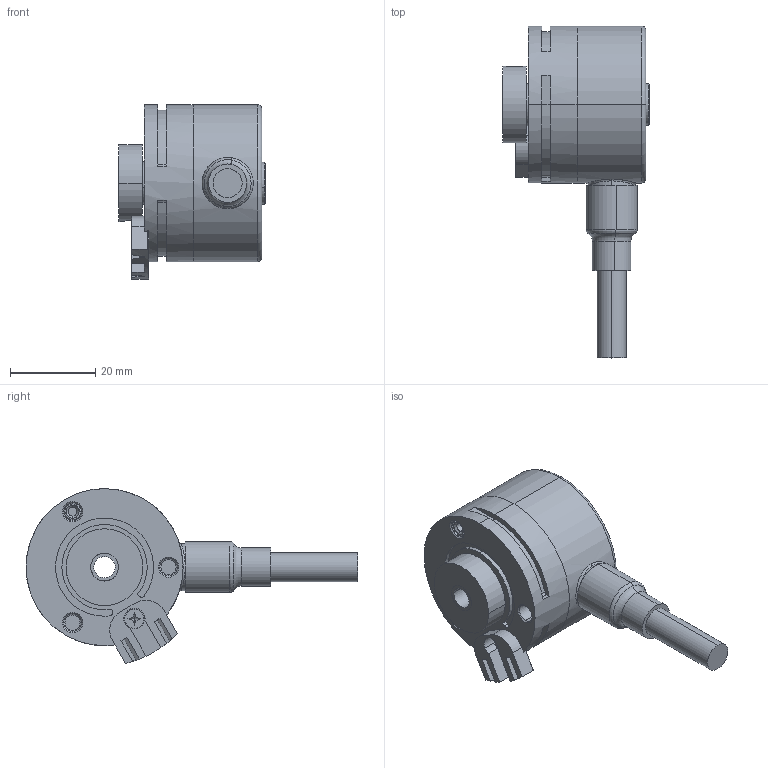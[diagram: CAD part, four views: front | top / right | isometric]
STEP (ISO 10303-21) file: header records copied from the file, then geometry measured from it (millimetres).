
FILE_DESCRIPTION (( 'STEP AP214' ), '1' );
FILE_NAME ('3720.12X1.XXXX.STEP', '2008-11-27T10:37:45', ( 'admin' ), ( 'Fritz Kübler GmbH' ), 'SwSTEP 2.0', 'SolidWorks 2008', '' );
FILE_SCHEMA (( 'AUTOMOTIVE_DESIGN' ));
Length unit declared in the file: millimetre
Products named in the file (1): 3720.12X1.XXXX
Bounding box: 34.3 x 77.8 x 40.95 mm (x, y, z)
Volume: 16612.3 mm3; surface area: 18872.9 mm2
Topology: 10 solids, 10 shells, 735 faces, 1814 edges, 1119 vertices
Faces by surface type: cylinder 275, plane 214, torus 90, bspline 77, cone 54, sphere 25
Entity records: 32684 total; most frequent: CARTESIAN_POINT 7648, DIRECTION 3614, ORIENTED_EDGE 3582, EDGE_CURVE 1791, AXIS2_PLACEMENT_3D 1499, VERTEX_POINT 1109, CIRCLE 840, EDGE_LOOP 790
